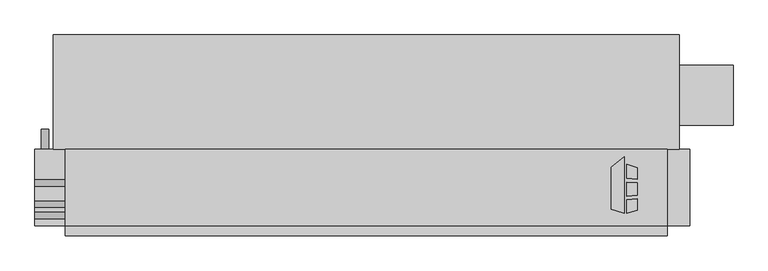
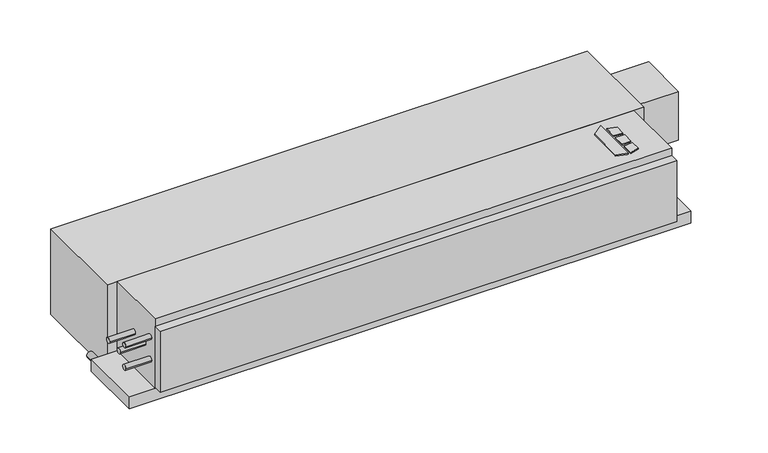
"""IFC4 building model written with IfcOpenShell, lengths in millimetres: proxy geometry, Concealed_Horizontal_Fan_Coil_Unit_With_Plenum_-_CPY_-_IEC_-_4-Pipe_LH_2022 : Size 12 - 277v/60Hz/1Ph - 4/1 Coil."""

from ifc_helpers import new_model, si_unit, point, frame, frame_2d, origin, origin_with_axes, place, context, project, spatial, polyline, circle_curve, trimmed, segment, composite_curve, outline, extrude, source, transform, mapped, element, save


def mechanical_equipment_185d564b(model_context):
    return source(origin(), model_context, "Body", "SweptSolid", [
        extrude(outline(polyline([(772.8019761, -186.6953476), (805.3602728, -161.2580184), (805.3602728, -303.2125), (772.8019761, -292.9929201), (772.8019761, -186.6953476)])), origin_with_axes(), (0.0, 0.0, 1.0), 3.175),
        extrude(outline(polyline([(812.1186058, -214.567352), (812.1186058, -180.0874379), (838.2, -188.2740115), (838.2, -217.7697446), (812.1186058, -214.567352)])), origin_with_axes(), (0.0, 0.0, 1.0), 3.175),
        extrude(outline(polyline([(838.2, -296.2240115), (812.1186058, -303.2125), (812.1186058, -269.9911996), (838.2, -266.4493564), (838.2, -296.2240115)])), origin_with_axes(), (0.0, 0.0, 1.0), 3.175),
        extrude(outline(polyline([(838.2, -226.8513277), (838.2, -258.101483), (812.1186058, -260.842748), (812.1186058, -224.9850378), (838.2, -226.8513277)])), origin_with_axes(), (0.0, 0.0, 1.0), 3.175),
        extrude(outline(composite_curve([segment(trimmed(circle_curve(frame_2d((-241.3, -660.4)), 9.525), [point((-241.3, -669.925))], [point((-241.3, -650.875))], False, "CARTESIAN"), True, "CONTINUOUS"), segment(trimmed(circle_curve(frame_2d((-241.3, -660.4)), 9.525), [point((-241.3, -650.875))], [point((-241.3, -669.925))], False, "CARTESIAN"), True, "CONTINUOUS")], self_intersect=False)), frame((0.0, -141.2875, 0.0), z_axis=(0.0, 1.0, 0.0), x_axis=(0.0, 0.0, 1.0)), (0.0, 0.0, 1.0), 50.8),
        extrude(outline(composite_curve([segment(trimmed(circle_curve(frame_2d((-309.5625, -69.85)), 7.9375), [point((-301.625, -69.85))], [point((-317.5, -69.85))], False, "CARTESIAN"), True, "CONTINUOUS"), segment(trimmed(circle_curve(frame_2d((-309.5625, -69.85)), 7.9375), [point((-317.5, -69.85))], [point((-301.625, -69.85))], False, "CARTESIAN"), True, "CONTINUOUS")], self_intersect=False)), frame((-685.8, 0.0, 0.0), z_axis=(1.0, 0.0, 0.0), x_axis=(0.0, 1.0, 0.0)), (0.0, 0.0, 1.0), 76.2),
        extrude(outline(composite_curve([segment(trimmed(circle_curve(frame_2d((-309.5625, -139.7)), 7.9375), [point((-301.625, -139.7))], [point((-317.5, -139.7))], False, "CARTESIAN"), True, "CONTINUOUS"), segment(trimmed(circle_curve(frame_2d((-309.5625, -139.7)), 7.9375), [point((-317.5, -139.7))], [point((-301.625, -139.7))], False, "CARTESIAN"), True, "CONTINUOUS")], self_intersect=False)), frame((-685.8, 0.0, 0.0), z_axis=(1.0, 0.0, 0.0), x_axis=(0.0, 1.0, 0.0)), (0.0, 0.0, 1.0), 76.2),
        extrude(outline(composite_curve([segment(trimmed(circle_curve(frame_2d((-227.0125, -104.775)), 7.9375), [point((-219.075, -104.775))], [point((-234.95, -104.775))], False, "CARTESIAN"), True, "CONTINUOUS"), segment(trimmed(circle_curve(frame_2d((-227.0125, -104.775)), 7.9375), [point((-234.95, -104.775))], [point((-219.075, -104.775))], False, "CARTESIAN"), True, "CONTINUOUS")], self_intersect=False)), frame((-685.8, 0.0, 0.0), z_axis=(1.0, 0.0, 0.0), x_axis=(0.0, 1.0, 0.0)), (0.0, 0.0, 1.0), 76.2),
        extrude(outline(composite_curve([segment(trimmed(circle_curve(frame_2d((-280.9875, -104.775)), 7.9375), [point((-273.05, -104.775))], [point((-288.925, -104.775))], False, "CARTESIAN"), True, "CONTINUOUS"), segment(trimmed(circle_curve(frame_2d((-280.9875, -104.775)), 7.9375), [point((-288.925, -104.775))], [point((-273.05, -104.775))], False, "CARTESIAN"), True, "CONTINUOUS")], self_intersect=False)), frame((-685.8, 0.0, 0.0), z_axis=(1.0, 0.0, 0.0), x_axis=(0.0, 1.0, 0.0)), (0.0, 0.0, 1.0), 76.2),
        extrude(outline(polyline([(914.4, -334.9625), (914.4, -360.3625), (-609.6, -360.3625), (-609.6, -334.9625), (914.4, -334.9625)])), frame((0.0, 0.0, -212.725), z_axis=(0.0, 0.0, 1.0), x_axis=(1.0, 0.0, 0.0)), (0.0, 0.0, 1.0), 190.5),
        extrude(outline(polyline([(914.4, -334.9625), (-609.6, -334.9625), (-609.6, -141.2875), (914.4, -141.2875), (914.4, -334.9625)])), frame((0.0, 0.0, -215.9), z_axis=(0.0, 0.0, 1.0), x_axis=(1.0, 0.0, 0.0)), (0.0, 0.0, 1.0), 215.9),
        extrude(outline(polyline([(971.55, -141.2875), (971.55, -334.9625), (-685.8, -334.9625), (-685.8, -141.2875), (971.55, -141.2875)])), frame((0.0, 0.0, -254.0), z_axis=(0.0, 0.0, 1.0), x_axis=(1.0, 0.0, 0.0)), (0.0, 0.0, 1.0), 38.1),
        extrude(outline(polyline([(1081.0875, 71.4375), (1081.0875, -80.9625), (944.5625, -80.9625), (944.5625, 71.4375), (1081.0875, 71.4375)])), frame((0.0, 0.0, -187.325), z_axis=(0.0, 0.0, 1.0), x_axis=(1.0, 0.0, 0.0)), (0.0, 0.0, 1.0), 152.4),
        extrude(outline(polyline([(-639.7625, 147.6375), (944.5625, 147.6375), (944.5625, -141.2875), (-639.7625, -141.2875), (-639.7625, 147.6375)])), frame((0.0, 0.0, -266.7), z_axis=(0.0, 0.0, 1.0), x_axis=(1.0, 0.0, 0.0)), (0.0, 0.0, 1.0), 266.7),
    ])


if __name__ == "__main__":
    model = new_model("IFC4")
    model_context = context("Model", 3, world=origin())
    ifc_project = project(units=[si_unit("LENGTHUNIT", "METRE", prefix="MILLI")], contexts=[model_context])
    site = spatial("IfcSite", under=ifc_project)
    building = spatial("IfcBuilding", under=site)
    placement = place(None, origin())
    mechanical_equipment_shape = mechanical_equipment_185d564b(model_context)
    element("IfcBuildingElementProxy", 1, Name="Concealed_Horizontal_Fan_Coil_Unit_With_Plenum_-_CPY_-_IEC_-_4-Pipe_LH_2022 : Size 12 - 277v/60Hz/1Ph - 4/1 Coil", ObjectType="Concealed_Horizontal_Fan_Coil_Unit_With_Plenum_-_CPY_-_IEC_-_4-Pipe_LH_2022 : Size 12 - 277v/60Hz/1Ph - 4/1 Coil", at=placement, inside=building, context=model_context, shape_type="MappedRepresentation", body=[
        mapped(mechanical_equipment_shape, transform((0.0, 0.0, 0.0), x_axis=(1.0, 0.0, 0.0), y_axis=(0.0, 1.0, 0.0), z_axis=(0.0, 0.0, 1.0))),
    ])
    save(model, "model.ifc")
